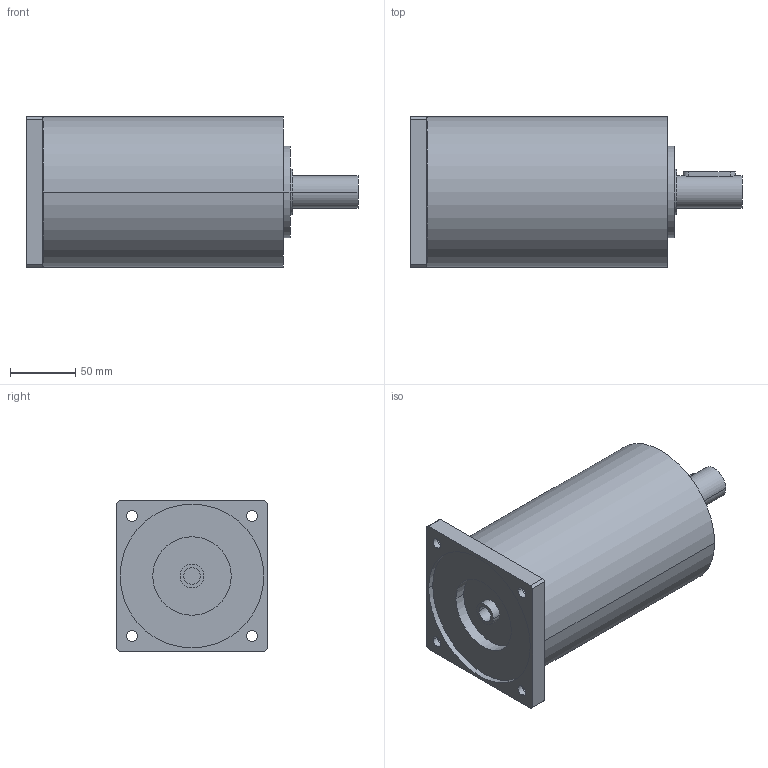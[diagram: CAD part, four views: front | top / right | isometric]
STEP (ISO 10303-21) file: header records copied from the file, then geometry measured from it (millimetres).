
FILE_DESCRIPTION(('CoCreate Modeling STEP Export'),'2;1');
FILE_NAME('GPR125_ig-48-64-80-100-140-196-245-343_25_B14_12.7_P07.stp','2014-08-26T14:20:25',(''),(''),'CoCreate Modeling STEP processor for AP214 (Solid Model)','CoCreate Modeling 16.00C 25-Feb-2009 (C) Parametric Technology GmbH','');
FILE_SCHEMA(('AUTOMOTIVE_DESIGN { 1 0 10303 214 1 1 1 1 }'));
Length unit declared in the file: millimetre
Products named in the file (2): GPR125_ig-48-64-80-100-140-196-245-343_25_B14_12.7_P07
Assembly tree (1 placements, depth 2):
  GPR125_ig-48-64-80-100-140-196-245-343_25_B14_12.7_P07
    GPR125_ig-48-64-80-100-140-196-245-343_25_B14_12.7_P07
Bounding box: 254 x 115 x 115 mm (x, y, z)
Volume: 2049945.5 mm3; surface area: 113370.3 mm2
Topology: 1 solids, 1 shells, 77 faces, 210 edges, 150 vertices
Faces by surface type: cylinder 48, plane 25, cone 4
Entity records: 2143 total; most frequent: ORIENTED_EDGE 416, CARTESIAN_POINT 397, DIRECTION 288, EDGE_CURVE 208, VERTEX_POINT 150, AXIS2_PLACEMENT_3D 109, EDGE_LOOP 102, FACE_OUTER_BOUND 77
